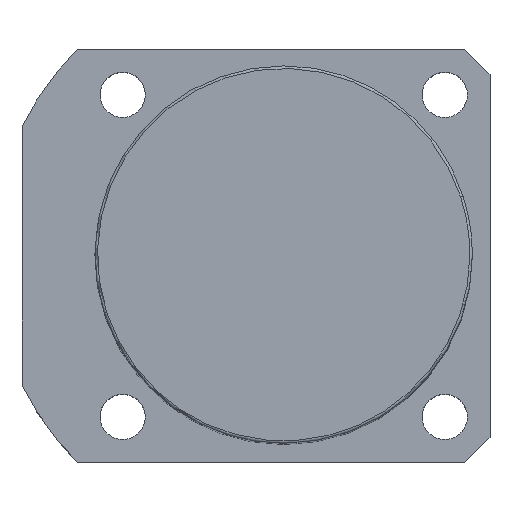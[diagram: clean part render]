
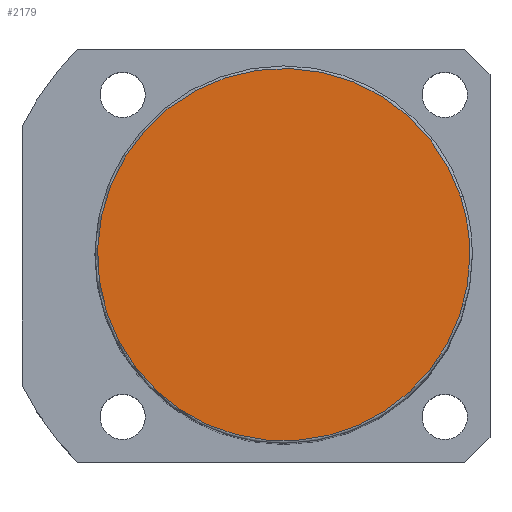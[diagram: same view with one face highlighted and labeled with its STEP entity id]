
A CAD part, top view. The second image highlights one B-rep face of the part: STEP entity #2179.
In plain terms, the highlighted planar face has unit normal (0, 0, 1).
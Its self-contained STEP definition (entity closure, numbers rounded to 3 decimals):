
#2112=CARTESIAN_POINT('',(35.189,11.434,158.0));
#2113=VERTEX_POINT('',#2112);
#2131=CARTESIAN_POINT('',(-35.189,-11.434,158.0));
#2132=VERTEX_POINT('',#2131);
#2140=CARTESIAN_POINT('',(0.0,0.0,158.0));
#2141=DIRECTION('',(0.0,0.0,1.0));
#2142=DIRECTION('',(1.0,0.0,0.0));
#2143=AXIS2_PLACEMENT_3D('',#2140,#2141,#2142);
#2144=CIRCLE('',#2143,37.0);
#2145=EDGE_CURVE('no 2003',#2113,#2132,#2144,.T.);
#2155=CARTESIAN_POINT('',(37.0,0.0,158.0));
#2156=VERTEX_POINT('',#2155);
#2157=CARTESIAN_POINT('',(0.0,0.0,158.0));
#2158=DIRECTION('',(0.0,0.0,1.0));
#2159=DIRECTION('',(1.0,0.0,0.0));
#2160=AXIS2_PLACEMENT_3D('',#2157,#2158,#2159);
#2161=CIRCLE('',#2160,37.0);
#2162=EDGE_CURVE('no 2012',#2156,#2113,#2161,.T.);
#2163=ORIENTED_EDGE('',*,*,#2162,.T.);
#2164=ORIENTED_EDGE('',*,*,#2145,.T.);
#2165=CARTESIAN_POINT('',(0.0,0.0,158.0));
#2166=DIRECTION('',(0.0,0.0,1.0));
#2167=DIRECTION('',(1.0,0.0,0.0));
#2168=AXIS2_PLACEMENT_3D('',#2165,#2166,#2167);
#2169=CIRCLE('',#2168,37.0);
#2170=EDGE_CURVE('no 2018',#2132,#2156,#2169,.T.);
#2171=ORIENTED_EDGE('',*,*,#2170,.T.);
#2172=EDGE_LOOP('',(#2163,#2164,#2171));
#2173=FACE_OUTER_BOUND('',#2172,.T.);
#2174=CARTESIAN_POINT('',(0.0,0.0,158.0));
#2175=DIRECTION('',(0.0,0.0,1.0));
#2176=DIRECTION('',(1.0,0.0,0.0));
#2177=AXIS2_PLACEMENT_3D('',#2174,#2175,#2176);
#2178=PLANE('',#2177);
#2179=ADVANCED_FACE('no 2005',(#2173),#2178,.T.);
